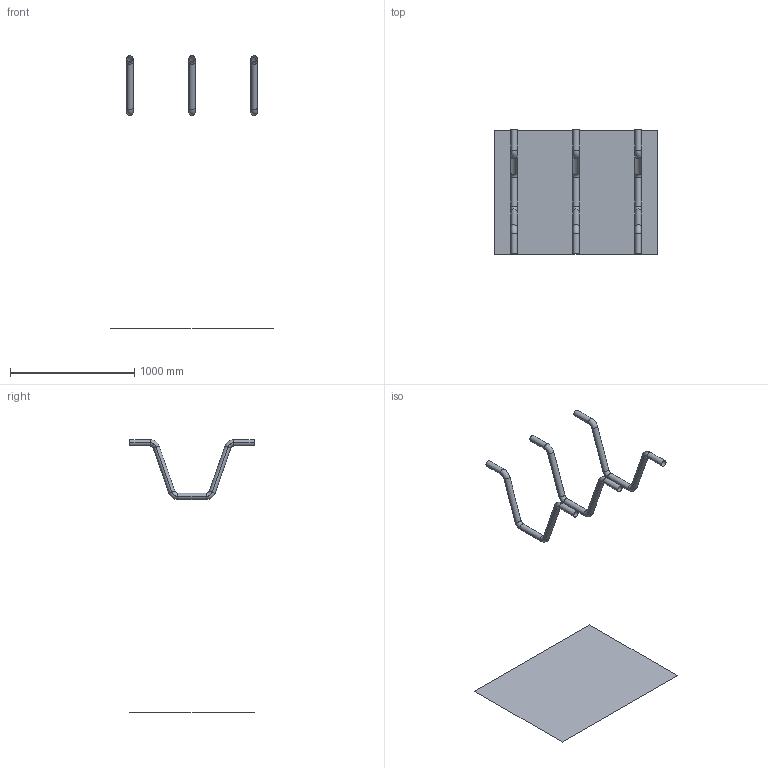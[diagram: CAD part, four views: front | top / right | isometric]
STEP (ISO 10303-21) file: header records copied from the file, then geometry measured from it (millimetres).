
FILE_DESCRIPTION(('CATIA V5 STEP Exchange'),'2;1');
FILE_NAME('C:\_Andres\UNIVERSIDAD\IQS\ASIGNATURAS\DAO\EXF\EXF-16172c\2inicio\Sanz_Alvarez_Ej08_v31.stp','2017-03-05T21:54:57+00:00',('none'),('none'),'CATIA Version 5-6 Release 2014 SP1 HF18','CATIA V5 STEP AP203','none');
FILE_SCHEMA(('CONFIG_CONTROL_DESIGN'));
Length unit declared in the file: millimetre
Products named in the file (1): Sanz_Alvarez_Ej08_v31
Bounding box: 1310 x 1000 x 2194 mm (x, y, z)
Surface area: 2052468.5 mm2 (no closed solid volume)
Topology: 0 solids, 4 shells, 55 faces, 118 edges, 64 vertices
Faces by surface type: cylinder 30, torus 24, plane 1
Entity records: 1283 total; most frequent: ORIENTED_EDGE 220, CARTESIAN_POINT 208, DIRECTION 168, EDGE_CURVE 118, AXIS2_PLACEMENT_3D 110, CIRCLE 84, VERTEX_POINT 64, ADVANCED_FACE 55
